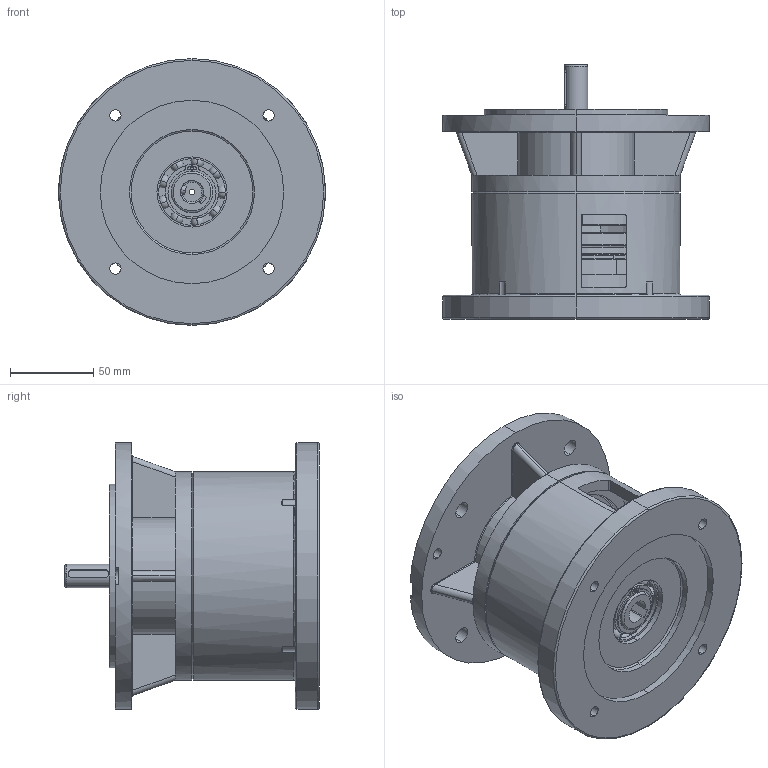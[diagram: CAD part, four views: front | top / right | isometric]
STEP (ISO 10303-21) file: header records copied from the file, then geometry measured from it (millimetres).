
FILE_DESCRIPTION (( 'STEP AP214' ), '1' );
FILE_NAME ('S-M10-K26_20171205.STEP', '2017-12-05T02:30:42', ( 'tec4' ), ( '' ), 'SwSTEP 2.0', 'SolidWorks 2015', '' );
FILE_SCHEMA (( 'AUTOMOTIVE_DESIGN' ));
Length unit declared in the file: millimetre
Products named in the file (1): S-M10-K26_20171205
Bounding box: 160 x 152.75 x 160 mm (x, y, z)
Surface area: 219220.4 mm2 (no closed solid volume)
Topology: 0 solids, 15 shells, 346 faces, 1167 edges, 785 vertices
Faces by surface type: cylinder 153, plane 66, torus 63, sphere 36, cone 20, bspline 8
Entity records: 18556 total; most frequent: CARTESIAN_POINT 5118, DIRECTION 2061, ORIENTED_EDGE 1879, EDGE_CURVE 1095, AXIS2_PLACEMENT_3D 883, VERTEX_POINT 749, CIRCLE 544, EDGE_LOOP 437
